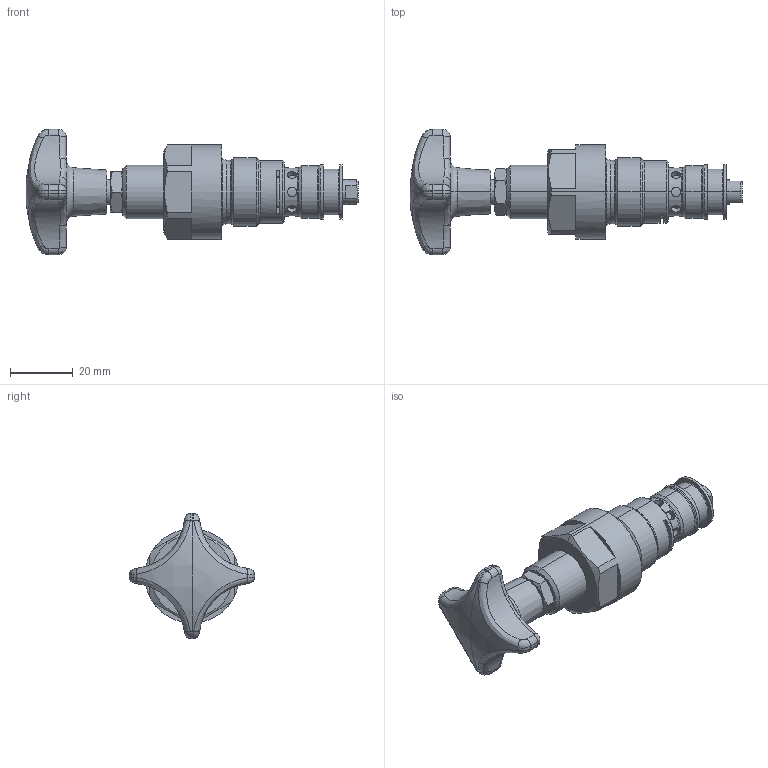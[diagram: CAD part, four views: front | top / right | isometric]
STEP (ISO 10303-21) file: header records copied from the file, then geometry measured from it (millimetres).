
FILE_DESCRIPTION (( 'STEP AP214' ), '1' );
FILE_NAME ('BAGPM22-K9.STEP', '2021-03-05T10:18:57', ( '' ), ( '' ), 'SwSTEP 2.0', 'SolidWorks 2020', '' );
FILE_SCHEMA (( 'AUTOMOTIVE_DESIGN' ));
Length unit declared in the file: millimetre
Products named in the file (1): BAGPM22-K9
Bounding box: 105.94 x 40 x 40 mm (x, y, z)
Volume: 35619.4 mm3; surface area: 9495.1 mm2
Topology: 1 solids, 1 shells, 205 faces, 455 edges, 269 vertices
Faces by surface type: cylinder 68, plane 45, torus 37, cone 29, bspline 24, sphere 2
Entity records: 10582 total; most frequent: CARTESIAN_POINT 3934, DIRECTION 919, ORIENTED_EDGE 910, EDGE_CURVE 455, AXIS2_PLACEMENT_3D 396, VERTEX_POINT 269, EDGE_LOOP 222, CIRCLE 214
